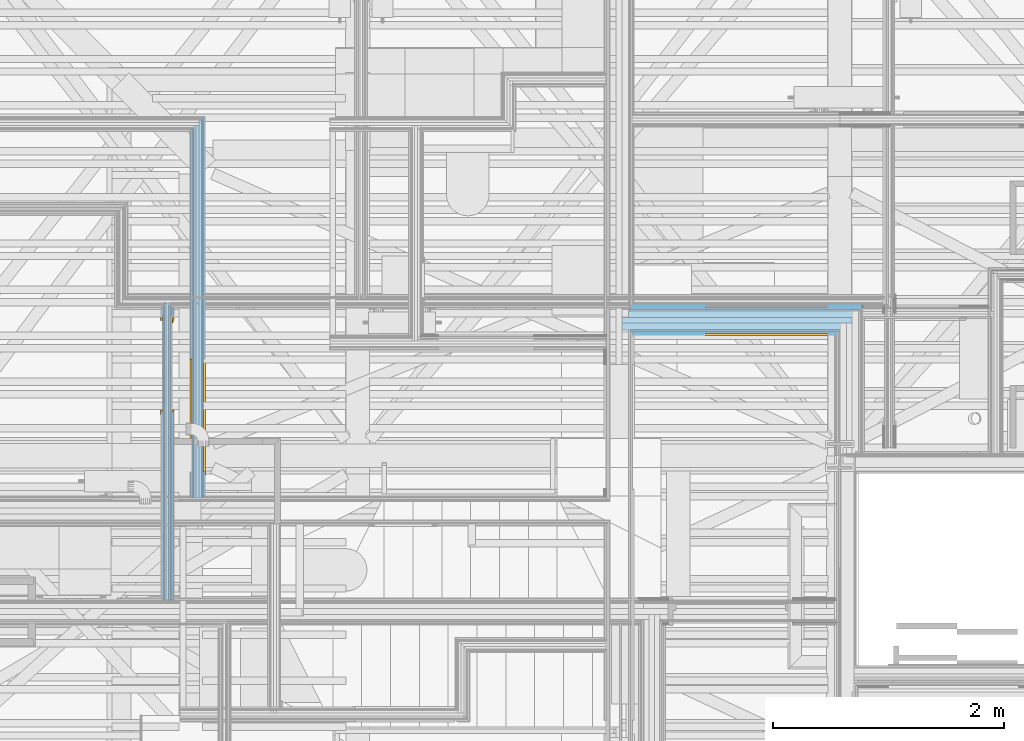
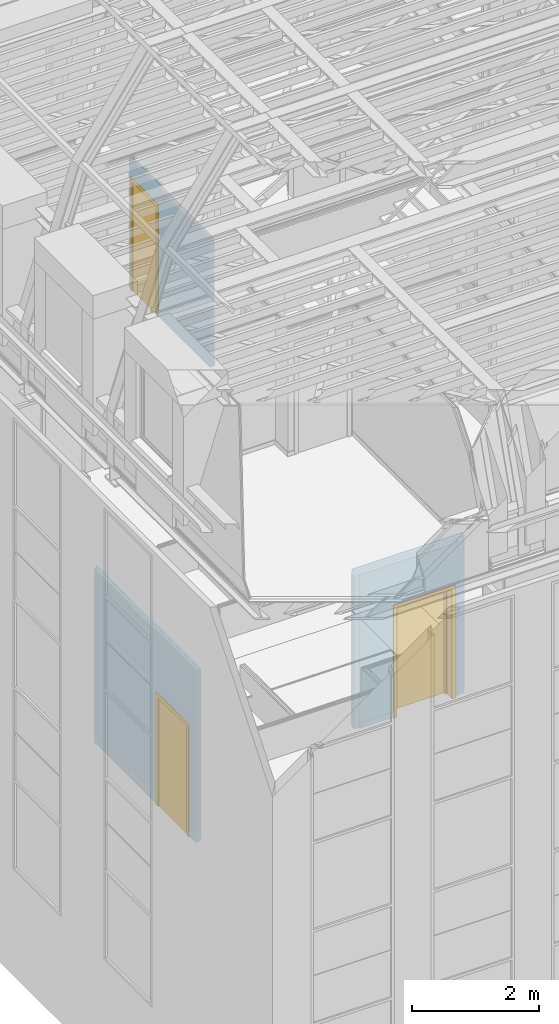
# One storey, part 102 of 183: 3 doors, 4 openings, 3 elements without a shape of their own, plus 23 elements that do not belong to this part.
"""IFC2X3 building model written with IfcOpenShell, lengths in metres."""

from ifc_helpers import new_model, entity, si_unit, converted_unit, derived_unit, money_unit, direction, frame, frame_2d, origin_with_axes, place, context, subcontext, project, spatial, polyline, rectangle, outline, extrude, faceted_brep, material, type_object, element, fill, aggregate, save


model = new_model("IFC2X3")

# Units and contexts
model_context = context("Model", 3, precision=1e-05, world=origin_with_axes(), true_north=direction((0.0, 1.0)))
body_context = subcontext(model_context, "Body", "Model", "MODEL_VIEW", scale=1.0)
ifc_project = project(units=[si_unit("LENGTHUNIT", "METRE"), si_unit("AREAUNIT", "SQUARE_METRE"), si_unit("VOLUMEUNIT", "CUBIC_METRE"), si_unit("ABSORBEDDOSEUNIT", "GRAY"), si_unit("AMOUNTOFSUBSTANCEUNIT", "MOLE"), si_unit("DOSEEQUIVALENTUNIT", "SIEVERT"), si_unit("ELECTRICCAPACITANCEUNIT", "FARAD"), si_unit("ELECTRICCHARGEUNIT", "COULOMB"), si_unit("ELECTRICCONDUCTANCEUNIT", "SIEMENS"), si_unit("ELECTRICCURRENTUNIT", "AMPERE"), si_unit("ELECTRICRESISTANCEUNIT", "OHM"), si_unit("ELECTRICVOLTAGEUNIT", "VOLT"), si_unit("ENERGYUNIT", "JOULE"), si_unit("FORCEUNIT", "NEWTON"), si_unit("FREQUENCYUNIT", "HERTZ"), si_unit("ILLUMINANCEUNIT", "LUX"), si_unit("INDUCTANCEUNIT", "HENRY"), si_unit("LUMINOUSFLUXUNIT", "LUMEN"), si_unit("LUMINOUSINTENSITYUNIT", "CANDELA"), si_unit("MAGNETICFLUXDENSITYUNIT", "TESLA"), si_unit("MAGNETICFLUXUNIT", "WEBER"), si_unit("MASSUNIT", "GRAM"), converted_unit("PLANEANGLEUNIT", "degree", entity("IfcReal", 0.0174532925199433), si_unit("PLANEANGLEUNIT", "RADIAN"), dimensions=[0, 0, 0, 0, 0, 0, 0]), si_unit("POWERUNIT", "WATT"), si_unit("PRESSUREUNIT", "PASCAL"), si_unit("RADIOACTIVITYUNIT", "BECQUEREL"), si_unit("SOLIDANGLEUNIT", "STERADIAN"), si_unit("THERMODYNAMICTEMPERATUREUNIT", "KELVIN"), si_unit("TIMEUNIT", "SECOND"), derived_unit("ACCELERATIONUNIT", [(si_unit("LENGTHUNIT", "METRE"), 1), (si_unit("TIMEUNIT", "SECOND"), -2)]), derived_unit("ANGULARVELOCITYUNIT", [(converted_unit("PLANEANGLEUNIT", "degree", entity("IfcReal", 0.0174532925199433), si_unit("PLANEANGLEUNIT", "RADIAN"), dimensions=[0, 0, 0, 0, 0, 0, 0]), 1), (si_unit("TIMEUNIT", "SECOND"), -1)]), derived_unit("CURVATUREUNIT", [(converted_unit("PLANEANGLEUNIT", "degree", entity("IfcReal", 0.0174532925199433), si_unit("PLANEANGLEUNIT", "RADIAN"), dimensions=[0, 0, 0, 0, 0, 0, 0]), 1), (si_unit("LENGTHUNIT", "METRE"), -1)]), derived_unit("DYNAMICVISCOSITYUNIT", [(si_unit("PRESSUREUNIT", "PASCAL"), 1), (si_unit("TIMEUNIT", "SECOND"), 1)]), derived_unit("HEATFLUXDENSITYUNIT", [(si_unit("POWERUNIT", "WATT"), 1), (si_unit("LENGTHUNIT", "METRE"), -2)]), derived_unit("HEATINGVALUEUNIT", [(si_unit("ENERGYUNIT", "JOULE"), 1), (si_unit("MASSUNIT", "GRAM"), -1)]), derived_unit("INTEGERCOUNTRATEUNIT", [(si_unit("TIMEUNIT", "SECOND"), -1)]), derived_unit("IONCONCENTRATIONUNIT", [(si_unit("MASSUNIT", "GRAM"), 1), (si_unit("VOLUMEUNIT", "CUBIC_METRE"), -1)]), derived_unit("ISOTHERMALMOISTURECAPACITYUNIT", [(si_unit("VOLUMEUNIT", "CUBIC_METRE"), 1), (si_unit("MASSUNIT", "GRAM"), -1)]), derived_unit("KINEMATICVISCOSITYUNIT", [(si_unit("AREAUNIT", "SQUARE_METRE"), 1), (si_unit("TIMEUNIT", "SECOND"), -1)]), derived_unit("LINEARFORCEUNIT", [(si_unit("FORCEUNIT", "NEWTON"), 1), (si_unit("LENGTHUNIT", "METRE"), -1)]), derived_unit("LINEARMOMENTUNIT", [(si_unit("FORCEUNIT", "NEWTON"), 1), (si_unit("LENGTHUNIT", "METRE"), -1)]), derived_unit("LINEARSTIFFNESSUNIT", [(si_unit("FORCEUNIT", "NEWTON"), 1), (si_unit("LENGTHUNIT", "METRE"), -1)]), derived_unit("LINEARVELOCITYUNIT", [(si_unit("LENGTHUNIT", "METRE"), 1), (si_unit("TIMEUNIT", "SECOND"), -1)]), derived_unit("LUMINOUSINTENSITYDISTRIBUTIONUNIT", [(si_unit("LUMINOUSINTENSITYUNIT", "CANDELA"), 1), (si_unit("LUMINOUSFLUXUNIT", "LUMEN"), -1)]), derived_unit("MASSDENSITYUNIT", [(si_unit("MASSUNIT", "GRAM"), 1), (si_unit("VOLUMEUNIT", "CUBIC_METRE"), -1)]), derived_unit("MASSFLOWRATEUNIT", [(si_unit("MASSUNIT", "GRAM"), 1), (si_unit("TIMEUNIT", "SECOND"), -1)]), derived_unit("MASSPERLENGTHUNIT", [(si_unit("MASSUNIT", "GRAM"), 1), (si_unit("LENGTHUNIT", "METRE"), -1)]), derived_unit("MODULUSOFELASTICITYUNIT", [(si_unit("FORCEUNIT", "NEWTON"), 1), (si_unit("AREAUNIT", "SQUARE_METRE"), -1)]), derived_unit("MODULUSOFLINEARSUBGRADEREACTIONUNIT", [(si_unit("FORCEUNIT", "NEWTON"), 1), (si_unit("LENGTHUNIT", "METRE"), -2)]), derived_unit("MODULUSOFROTATIONALSUBGRADEREACTIONUNIT", [(si_unit("FORCEUNIT", "NEWTON"), 1), (si_unit("LENGTHUNIT", "METRE"), 1)]), derived_unit("MODULUSOFSUBGRADEREACTIONUNIT", [(si_unit("FORCEUNIT", "NEWTON"), 1), (si_unit("VOLUMEUNIT", "CUBIC_METRE"), -1)]), derived_unit("MOISTUREDIFFUSIVITYUNIT", [(si_unit("VOLUMEUNIT", "CUBIC_METRE"), 1), (si_unit("TIMEUNIT", "SECOND"), -1)]), derived_unit("MOLECULARWEIGHTUNIT", [(si_unit("MASSUNIT", "GRAM"), 1), (si_unit("AMOUNTOFSUBSTANCEUNIT", "MOLE"), -1)]), derived_unit("PLANARFORCEUNIT", [(si_unit("FORCEUNIT", "NEWTON"), 1), (si_unit("LENGTHUNIT", "METRE"), -2)]), derived_unit("ROTATIONALFREQUENCYUNIT", [(si_unit("TIMEUNIT", "SECOND"), -1)]), derived_unit("ROTATIONALMASSUNIT", [(si_unit("MASSUNIT", "GRAM"), 1), (si_unit("LENGTHUNIT", "METRE"), 2)]), derived_unit("ROTATIONALSTIFFNESSUNIT", [(si_unit("FORCEUNIT", "NEWTON"), 1), (si_unit("LENGTHUNIT", "METRE"), 1), (converted_unit("PLANEANGLEUNIT", "degree", entity("IfcReal", 0.0174532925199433), si_unit("PLANEANGLEUNIT", "RADIAN"), dimensions=[0, 0, 0, 0, 0, 0, 0]), -1)]), derived_unit("SECTIONAREAINTEGRALUNIT", [(si_unit("LENGTHUNIT", "METRE"), 5)]), derived_unit("SECTIONMODULUSUNIT", [(si_unit("LENGTHUNIT", "METRE"), 3)]), derived_unit("SHEARMODULUSUNIT", [(si_unit("FORCEUNIT", "NEWTON"), 1), (si_unit("AREAUNIT", "SQUARE_METRE"), -1)]), derived_unit("SOUNDPOWERUNIT", [(si_unit("ENERGYUNIT", "JOULE"), 1), (si_unit("TIMEUNIT", "SECOND"), -1)]), derived_unit("SPECIFICHEATCAPACITYUNIT", [(si_unit("FORCEUNIT", "NEWTON"), 1), (si_unit("MASSUNIT", "GRAM"), -1), (si_unit("THERMODYNAMICTEMPERATUREUNIT", "KELVIN"), -1)]), derived_unit("TEMPERATUREGRADIENTUNIT", [(si_unit("THERMODYNAMICTEMPERATUREUNIT", "KELVIN"), 1), (si_unit("LENGTHUNIT", "METRE"), -1)]), derived_unit("THERMALADMITTANCEUNIT", [(si_unit("POWERUNIT", "WATT"), 1), (si_unit("AREAUNIT", "SQUARE_METRE"), -1), (si_unit("THERMODYNAMICTEMPERATUREUNIT", "KELVIN"), -1)]), derived_unit("THERMALCONDUCTANCEUNIT", [(si_unit("POWERUNIT", "WATT"), 1), (si_unit("LENGTHUNIT", "METRE"), -1), (si_unit("THERMODYNAMICTEMPERATUREUNIT", "KELVIN"), -1)]), derived_unit("THERMALEXPANSIONCOEFFICIENTUNIT", [(si_unit("THERMODYNAMICTEMPERATUREUNIT", "KELVIN"), -1)]), derived_unit("THERMALRESISTANCEUNIT", [(si_unit("AREAUNIT", "SQUARE_METRE"), 1), (si_unit("POWERUNIT", "WATT"), -1)]), derived_unit("THERMALTRANSMITTANCEUNIT", [(si_unit("POWERUNIT", "WATT"), 1), (si_unit("AREAUNIT", "SQUARE_METRE"), -1), (si_unit("THERMODYNAMICTEMPERATUREUNIT", "KELVIN"), -1)]), derived_unit("TORQUEUNIT", [(si_unit("FORCEUNIT", "NEWTON"), 1), (si_unit("LENGTHUNIT", "METRE"), 1)]), derived_unit("VAPORPERMEABILITYUNIT", [(si_unit("MASSUNIT", "GRAM"), 1), (si_unit("TIMEUNIT", "SECOND"), -1)]), derived_unit("VOLUMETRICFLOWRATEUNIT", [(si_unit("VOLUMEUNIT", "CUBIC_METRE"), 1), (si_unit("TIMEUNIT", "SECOND"), -1)]), derived_unit("WARPINGCONSTANTUNIT", [(si_unit("LENGTHUNIT", "METRE"), 6)]), derived_unit("WARPINGMOMENTUNIT", [(si_unit("FORCEUNIT", "NEWTON"), 1), (si_unit("LENGTHUNIT", "METRE"), 2)]), money_unit("GBP")], contexts=[model_context])

# Site, building, storey, space
site_placement = place(None, origin_with_axes())
site = spatial("IfcSite", under=ifc_project, at=site_placement, Name="Site", CompositionType="ELEMENT")
building_placement = place(site_placement, origin_with_axes())
building = spatial("IfcBuilding", under=site, at=building_placement, Name="Building01", CompositionType="ELEMENT")
storey_placement = place(building_placement, frame((0.0, 0.0, 5.15), z_axis=(0.0, 0.0, 1.0), x_axis=(1.0, 0.0, 0.0)))
storey = spatial("IfcBuildingStorey", under=building, at=storey_placement, Name="1F", CompositionType="ELEMENT", Elevation=5.15)
space_1_placement = place(storey_placement, frame((1.009939, 13.890379, 9.81), z_axis=(0.0, 0.0, 1.0), x_axis=(0.0, -1.0, 0.0)))
space_1 = spatial("IfcSpace", under=storey, at=space_1_placement, Name="26", CompositionType="ELEMENT", InteriorOrExteriorSpace="NOTDEFINED")

# Door
ifc_material_1 = material(Name="A_BSUK_Doors")
door_style_1 = type_object("IfcDoorStyle", Name="A-Doors-SingleFlush", ConstructionType="USERDEFINED", OperationType="SINGLE_SWING_RIGHT", ParameterTakesPrecedence=False, Sizeable=False)
wall_3_placement = place(storey_placement, frame((3.272, 7.550061, 9.78), z_axis=(0.0, 0.0, 1.0), x_axis=(0.0, 1.0, 0.0)))
opening_4_placement = place(wall_3_placement, frame((1.632879, -0.043, 0.0), z_axis=(0.0, 0.0, 1.0), x_axis=(1.0, 0.0, 0.0)))
door_1_placement = place(opening_4_placement, frame((0.042, 0.095, 0.0), z_axis=(0.0, 0.0, 1.0), x_axis=(1.0, 0.0, 0.0)))
door_1 = element("IfcDoor", 1, at=door_1_placement, inside=space_1, type_object=door_style_1, material=ifc_material_1, Name="4.26", ObjectType="A-Doors-SingleFlush", OverallHeight=2.142, OverallWidth=0.834, context=body_context, shape_type="Brep", body=[
    faceted_brep([(0.75, -0.099, 0.0), (0.819, -0.099, 0.0), (0.819, -0.099, 2.169), (-0.069, -0.099, 2.169), (-0.069, -0.099, 0.0), (0.0, -0.099, 0.0), (0.0, -0.099, 2.1), (0.75, -0.099, 2.1), (-0.069, -0.08, 0.0), (-0.069, -0.08, 2.169), (0.819, -0.08, 2.169), (0.819, -0.08, 0.0), (0.75, 0.019, 0.0), (0.819, 0.019, 0.0), (0.819, 0.0, 0.0), (0.792, 0.0, 0.0), (0.792, -0.08, 0.0), (0.75, 0.019, 2.1), (0.0, 0.019, 2.1), (0.0, 0.019, 0.0), (-0.069, 0.019, 0.0), (-0.069, 0.019, 2.169), (0.819, 0.019, 2.169), (0.819, 0.0, 2.169), (0.792, -0.08, 2.142), (0.792, 0.0, 2.142), (-0.042, -0.08, 2.142), (-0.042, 0.0, 2.142), (-0.042, -0.08, 0.0), (-0.042, 0.0, 0.0), (-0.069, 0.0, 2.169), (-0.069, 0.0, 0.0)], [[[0, 1, 2, 3, 4, 5, 6, 7]], [[8, 4, 3, 9]], [[10, 2, 1, 11]], [[9, 3, 2, 10]], [[12, 13, 14, 15, 16, 11, 1, 0]], [[7, 17, 12, 0]], [[6, 18, 17, 7]], [[18, 19, 20, 21, 22, 13, 12, 17]], [[5, 19, 18, 6]], [[13, 22, 23, 14]], [[24, 16, 15, 25]], [[26, 24, 25, 27]], [[11, 16, 24, 26, 28, 8, 9, 10]], [[27, 29, 28, 26]], [[25, 15, 14, 23, 30, 31, 29, 27]], [[5, 4, 8, 28, 29, 31, 20, 19]], [[30, 21, 20, 31]], [[23, 22, 21, 30]]]),
    faceted_brep([(0.0, -0.09, 2.1), (0.0, -0.04, 2.1), (0.0, -0.04, 0.0), (0.0, -0.09, 0.0), (0.725, -0.09, 0.0), (0.75, -0.09, 0.0), (0.75, -0.09, 2.1), (0.025, -0.09, 0.0), (0.025, -0.09, 2.075), (0.725, -0.09, 2.075), (0.725, -0.04, 0.0), (0.75, -0.04, 0.0), (0.75, -0.04, 2.1), (0.025, -0.04, 2.075), (0.025, -0.04, 0.0), (0.725, -0.04, 2.075)], [[[0, 1, 2, 3]], [[4, 5, 6, 0, 3, 7, 8, 9]], [[10, 11, 5, 4]], [[6, 12, 1, 0]], [[5, 11, 12, 6]], [[13, 14, 2, 1, 12, 11, 10, 15]], [[7, 14, 13, 8]], [[7, 3, 2, 14]], [[9, 15, 10, 4]], [[8, 13, 15, 9]]]),
    faceted_brep([(0.75, -0.04, 0.0), (0.75, 0.0, 0.0), (0.75, 0.0, 2.1), (0.75, -0.04, 2.1), (0.0, -0.04, 2.1), (0.0, 0.0, 2.1), (0.0, 0.0, 0.0), (0.0, -0.04, 0.0)], [[[0, 1, 2, 3]], [[4, 5, 6, 7]], [[7, 6, 1, 0]], [[3, 4, 7, 0]], [[3, 2, 5, 4]], [[1, 6, 5, 2]]]),
])

# Space
space_2_placement = place(storey_placement, frame((11.375, 11.668124, 0.017975), z_axis=(0.0, 0.0, 1.0), x_axis=(-1.0, 0.0, 0.0)))
space_2 = spatial("IfcSpace", under=storey, at=space_2_placement, Name="corridor", CompositionType="ELEMENT", InteriorOrExteriorSpace="NOTDEFINED")

# Door
door_style_2 = type_object("IfcDoorStyle", Name="A-Doors-SingleFlush", ConstructionType="USERDEFINED", OperationType="SINGLE_SWING_LEFT", ParameterTakesPrecedence=False, Sizeable=False)
wall_1_placement = place(storey_placement, frame((9.197, 9.949704, 0.0), z_axis=(0.0, 0.0, 1.0), x_axis=(-1.0, 0.0, 0.0)))
opening_2_placement = place(wall_1_placement, frame((0.200331, -0.153, 0.0), z_axis=(0.0, 0.0, 1.0), x_axis=(1.0, 0.0, 0.0)))
door_2_placement = place(opening_2_placement, frame((1.042, 0.015, 0.0), z_axis=(0.0, 0.0, 1.0), x_axis=(-1.0, 0.0, 0.0)))
door_2 = element("IfcDoor", 2, at=door_2_placement, inside=space_2, type_object=door_style_2, material=ifc_material_1, Name="1.23", ObjectType="A-Doors-SingleFlush", OverallHeight=2.142, OverallWidth=1.084, context=body_context, shape_type="Brep", body=[
    faceted_brep([(0.0, -0.244, 2.1), (1.0, -0.244, 2.1), (1.0, -0.244, 0.0), (1.069, -0.244, 0.0), (1.069, -0.244, 2.169), (-0.069, -0.244, 2.169), (-0.069, -0.244, 0.0), (0.0, -0.244, 0.0), (1.069, -0.225, 2.169), (1.069, -0.225, 0.0), (-0.069, -0.225, 0.0), (-0.069, -0.225, 2.169), (-0.042, -0.225, 0.0), (-0.042, 0.0, 0.0), (-0.069, 0.0, 0.0), (-0.069, 0.019, 0.0), (0.0, 0.019, 0.0), (0.0, 0.019, 2.1), (1.0, 0.019, 2.1), (-0.069, 0.019, 2.169), (1.069, 0.019, 2.169), (1.069, 0.019, 0.0), (1.0, 0.019, 0.0), (-0.069, 0.0, 2.169), (-0.042, 0.0, 2.142), (-0.042, -0.225, 2.142), (1.042, 0.0, 2.142), (1.042, -0.225, 2.142), (1.042, -0.225, 0.0), (1.042, 0.0, 0.0), (1.069, 0.0, 0.0), (1.069, 0.0, 2.169)], [[[0, 1, 2, 3, 4, 5, 6, 7]], [[8, 4, 3, 9]], [[10, 6, 5, 11]], [[11, 5, 4, 8]], [[7, 6, 10, 12, 13, 14, 15, 16]], [[7, 16, 17, 0]], [[0, 17, 18, 1]], [[17, 16, 15, 19, 20, 21, 22, 18]], [[1, 18, 22, 2]], [[14, 23, 19, 15]], [[24, 13, 12, 25]], [[26, 24, 25, 27]], [[11, 8, 9, 28, 27, 25, 12, 10]], [[27, 28, 29, 26]], [[26, 29, 30, 31, 23, 14, 13, 24]], [[22, 21, 30, 29, 28, 9, 3, 2]], [[30, 21, 20, 31]], [[31, 20, 19, 23]]]),
    faceted_brep([(1.0, -0.09, 0.0), (1.0, -0.04, 0.0), (1.0, -0.04, 2.1), (1.0, -0.09, 2.1), (0.025, -0.09, 2.075), (0.975, -0.09, 2.075), (0.975, -0.09, 0.0), (0.0, -0.09, 2.1), (0.0, -0.09, 0.0), (0.025, -0.09, 0.0), (0.0, -0.04, 0.0), (0.025, -0.04, 0.0), (0.0, -0.04, 2.1), (0.025, -0.04, 2.075), (0.975, -0.04, 0.0), (0.975, -0.04, 2.075)], [[[0, 1, 2, 3]], [[4, 5, 6, 0, 3, 7, 8, 9]], [[9, 8, 10, 11]], [[3, 2, 12, 7]], [[7, 12, 10, 8]], [[13, 11, 10, 12, 2, 1, 14, 15]], [[5, 15, 14, 6]], [[14, 1, 0, 6]], [[9, 11, 13, 4]], [[4, 13, 15, 5]]]),
    faceted_brep([(0.0, -0.04, 2.1), (0.0, 0.0, 2.1), (0.0, 0.0, 0.0), (0.0, -0.04, 0.0), (1.0, -0.04, 0.0), (1.0, 0.0, 0.0), (1.0, 0.0, 2.1), (1.0, -0.04, 2.1)], [[[0, 1, 2, 3]], [[4, 5, 6, 7]], [[3, 2, 5, 4]], [[3, 4, 7, 0]], [[7, 6, 1, 0]], [[1, 6, 5, 2]]]),
])

# Space
space_3_placement = place(storey_placement, frame((7.064669, 14.582, 0.017975), z_axis=(0.0, 0.0, 1.0), x_axis=(-1.0, 0.0, 0.0)))
space_3 = spatial("IfcSpace", under=storey, at=space_3_placement, Name="07", CompositionType="ELEMENT", InteriorOrExteriorSpace="NOTDEFINED")

# Door
door_style_3 = type_object("IfcDoorStyle", Name="A-Doors-SingleFlush", ConstructionType="USERDEFINED", OperationType="SINGLE_SWING_LEFT", ParameterTakesPrecedence=False, Sizeable=False)
wall_2_placement = place(storey_placement, frame((3.534669, 8.43567, 0.0), z_axis=(0.0, 0.0, 1.0), x_axis=(0.0, 1.0, 0.0)))
opening_3_placement = place(wall_2_placement, frame((0.223034, -0.05, 0.0), z_axis=(0.0, 0.0, 1.0), x_axis=(1.0, 0.0, 0.0)))
door_3_placement = place(opening_3_placement, frame((0.042, 0.11, 0.0), z_axis=(0.0, 0.0, 1.0), x_axis=(1.0, 0.0, 0.0)))
door_3 = element("IfcDoor", 3, at=door_3_placement, inside=space_3, type_object=door_style_3, material=ifc_material_1, Name="1.21", ObjectType="A-Doors-SingleFlush", OverallHeight=2.142, OverallWidth=0.984, context=body_context, shape_type="Brep", body=[
    faceted_brep([(0.0, -0.114, 2.1), (0.9, -0.114, 2.1), (0.9, -0.114, 0.0), (0.969, -0.114, 0.0), (0.969, -0.114, 2.169), (-0.069, -0.114, 2.169), (-0.069, -0.114, 0.0), (0.0, -0.114, 0.0), (0.969, -0.095, 2.169), (0.969, -0.095, 0.0), (-0.069, -0.095, 0.0), (-0.069, -0.095, 2.169), (-0.042, -0.095, 0.0), (-0.042, 0.0, 0.0), (-0.069, 0.0, 0.0), (-0.069, 0.019, 0.0), (0.0, 0.019, 0.0), (0.0, 0.019, 2.1), (0.9, 0.019, 2.1), (-0.069, 0.019, 2.169), (0.969, 0.019, 2.169), (0.969, 0.019, 0.0), (0.9, 0.019, 0.0), (-0.069, 0.0, 2.169), (-0.042, 0.0, 2.142), (-0.042, -0.095, 2.142), (0.942, 0.0, 2.142), (0.942, -0.095, 2.142), (0.942, -0.095, 0.0), (0.942, 0.0, 0.0), (0.969, 0.0, 0.0), (0.969, 0.0, 2.169)], [[[0, 1, 2, 3, 4, 5, 6, 7]], [[8, 4, 3, 9]], [[10, 6, 5, 11]], [[11, 5, 4, 8]], [[7, 6, 10, 12, 13, 14, 15, 16]], [[7, 16, 17, 0]], [[0, 17, 18, 1]], [[17, 16, 15, 19, 20, 21, 22, 18]], [[1, 18, 22, 2]], [[14, 23, 19, 15]], [[24, 13, 12, 25]], [[26, 24, 25, 27]], [[11, 8, 9, 28, 27, 25, 12, 10]], [[27, 28, 29, 26]], [[26, 29, 30, 31, 23, 14, 13, 24]], [[22, 21, 30, 29, 28, 9, 3, 2]], [[30, 21, 20, 31]], [[31, 20, 19, 23]]]),
    faceted_brep([(0.9, -0.09, 0.0), (0.9, -0.04, 0.0), (0.9, -0.04, 2.1), (0.9, -0.09, 2.1), (0.025, -0.09, 2.075), (0.875, -0.09, 2.075), (0.875, -0.09, 0.0), (0.0, -0.09, 2.1), (0.0, -0.09, 0.0), (0.025, -0.09, 0.0), (0.0, -0.04, 0.0), (0.025, -0.04, 0.0), (0.0, -0.04, 2.1), (0.025, -0.04, 2.075), (0.875, -0.04, 0.0), (0.875, -0.04, 2.075)], [[[0, 1, 2, 3]], [[4, 5, 6, 0, 3, 7, 8, 9]], [[9, 8, 10, 11]], [[3, 2, 12, 7]], [[7, 12, 10, 8]], [[13, 11, 10, 12, 2, 1, 14, 15]], [[5, 15, 14, 6]], [[14, 1, 0, 6]], [[9, 11, 13, 4]], [[4, 13, 15, 5]]]),
    faceted_brep([(0.0, -0.04, 2.1), (0.0, 0.0, 2.1), (0.0, 0.0, 0.0), (0.0, -0.04, 0.0), (0.9, -0.04, 0.0), (0.9, 0.0, 0.0), (0.9, 0.0, 2.1), (0.9, -0.04, 2.1)], [[[0, 1, 2, 3]], [[4, 5, 6, 7]], [[3, 2, 5, 4]], [[3, 4, 7, 0]], [[7, 6, 1, 0]], [[1, 6, 5, 2]]]),
])

# Wall, openings
wall_type_1 = type_object("IfcWallType", Name="SHE_A-Walls_Type01c_Partywall_225mm_twin_tall", PredefinedType="NOTDEFINED")
wall_1 = element("IfcWall", 4, at=wall_1_placement, inside=storey, type_object=wall_type_1, Name="1C", ObjectType="SHE_A-Walls_Type01c_Partywall_225mm_twin_tall")
opening_1_placement = place(wall_1_placement, frame((-0.931871, -0.153, 0.0), z_axis=(0.0, 0.0, 1.0), x_axis=(1.0, 0.0, 0.0)))
element("IfcOpeningElement", 5, at=opening_1_placement, cuts=wall_1, Name="Opening", ObjectType="Recess", context=body_context, shape_type="SweptSolid", body=[
    extrude(rectangle(XDim=2.142, YDim=0.834, at=frame_2d((-0.417, 1.071), x_axis=(0.0, -1.0))), frame((0.0, 0.0, 0.0), z_axis=(0.0, 1.0, 0.0), x_axis=(-1.0, 0.0, 0.0)), (0.0, 0.0, 1.0), 0.015),
])
opening_2 = element("IfcOpeningElement", 6, at=opening_2_placement, cuts=wall_1, Name="Opening", ObjectType="Opening", context=body_context, shape_type="SweptSolid", body=[
    extrude(rectangle(XDim=1.084, YDim=2.142, at=frame_2d((-0.542, 1.071), x_axis=(-1.0, 0.0))), frame((0.0, 0.0, 0.0), z_axis=(0.0, 1.0, 0.0), x_axis=(-1.0, 0.0, 0.0)), (0.0, 0.0, 1.0), 0.255),
])

fill(opening_2, door_2)

# Building element part
ifc_material_2 = material(Name="A_BSUK_Walls_Timber")
placement_1 = place(wall_1_placement, origin_with_axes())
building_element_part_1 = element("IfcBuildingElementPart", 7, at=placement_1, material=ifc_material_2, Name="1", context=body_context, shape_type="SweptSolid", body=[
    extrude(outline(polyline([(1.907331, -0.138), (-0.088, -0.138), (-0.103, -0.153), (1.907331, -0.153), (1.907331, -0.138)])), frame((0.0, 0.0, 0.015), z_axis=(0.0, 0.0, 1.0), x_axis=(1.0, 0.0, 0.0)), (0.0, 0.0, 1.0), 0.1),
])

ifc_material_3 = material(Name="A_BSUK_WallInternal_Finishes_Plasterboard")
building_element_part_2 = element("IfcBuildingElementPart", 8, at=placement_1, material=ifc_material_3, Name="2", context=body_context, shape_type="SweptSolid", body=[
    extrude(rectangle(XDim=2.010331, YDim=0.015, at=frame_2d((0.917166, -0.1305), x_axis=(-1.0, 0.0))), origin_with_axes(), (0.0, 0.0, 1.0), 2.95),
])

building_element_part_3 = element("IfcBuildingElementPart", 9, at=placement_1, material=ifc_material_3, Name="3", context=body_context, shape_type="SweptSolid", body=[
    extrude(rectangle(XDim=2.010331, YDim=0.015, at=frame_2d((0.932166, -0.1155), x_axis=(-1.0, 0.0))), origin_with_axes(), (0.0, 0.0, 1.0), 2.95),
])

ifc_material_4 = material(Name="Air Cavity")
building_element_part_4 = element("IfcBuildingElementPart", 10, at=placement_1, material=ifc_material_4, Name="4", context=body_context, shape_type="SweptSolid", body=[
    extrude(rectangle(XDim=2.010331, YDim=0.058, at=frame_2d((0.932166, -0.079), x_axis=(-1.0, 0.0))), origin_with_axes(), (0.0, 0.0, 1.0), 2.95),
])

ifc_material_5 = material(Name="A_BSUK_Insulation")
building_element_part_5 = element("IfcBuildingElementPart", 11, at=placement_1, material=ifc_material_5, Name="5", context=body_context, shape_type="SweptSolid", body=[
    extrude(rectangle(XDim=1.995331, YDim=0.05, at=frame_2d((0.997666, -0.025), x_axis=(-1.0, 0.0))), origin_with_axes(), (0.0, 0.0, 1.0), 2.95),
])

building_element_part_6 = element("IfcBuildingElementPart", 12, at=placement_1, material=ifc_material_4, Name="6", context=body_context, shape_type="SweptSolid", body=[
    extrude(rectangle(XDim=1.995331, YDim=0.057, at=frame_2d((0.997666, 0.0285), x_axis=(-1.0, 0.0))), origin_with_axes(), (0.0, 0.0, 1.0), 2.95),
])

building_element_part_7 = element("IfcBuildingElementPart", 13, at=placement_1, material=ifc_material_3, Name="7", context=body_context, shape_type="SweptSolid", body=[
    extrude(outline(polyline([(1.922331, 0.072), (0.122, 0.072), (0.107, 0.057), (1.922331, 0.057), (1.922331, 0.072)])), origin_with_axes(), (0.0, 0.0, 1.0), 2.95),
])

building_element_part_8 = element("IfcBuildingElementPart", 14, at=placement_1, material=ifc_material_3, Name="8", context=body_context, shape_type="SweptSolid", body=[
    extrude(outline(polyline([(1.907331, 0.087), (0.137, 0.087), (0.122, 0.072), (1.907331, 0.072), (1.907331, 0.087)])), origin_with_axes(), (0.0, 0.0, 1.0), 2.95),
])

building_element_part_9 = element("IfcBuildingElementPart", 15, at=placement_1, material=ifc_material_2, Name="9", context=body_context, shape_type="SweptSolid", body=[
    extrude(outline(polyline([(1.892331, 0.102), (0.152, 0.102), (0.137, 0.087), (1.892331, 0.087), (1.892331, 0.102)])), frame((0.0, 0.0, 0.015), z_axis=(0.0, 0.0, 1.0), x_axis=(1.0, 0.0, 0.0)), (0.0, 0.0, 1.0), 0.1),
])

aggregate(wall_1, [building_element_part_1, building_element_part_2, building_element_part_3, building_element_part_4, building_element_part_5, building_element_part_6, building_element_part_7, building_element_part_8, building_element_part_9])

# Wall, opening
wall_type_2 = type_object("IfcWallType", Name="SHE_A-Walls_Type05a_Partition_95mm_tall", PredefinedType="NOTDEFINED")
wall_2 = element("IfcWall", 16, at=wall_2_placement, inside=storey, type_object=wall_type_2, Name="5A", ObjectType="SHE_A-Walls_Type05a_Partition_95mm_tall")
opening_3 = element("IfcOpeningElement", 17, at=opening_3_placement, cuts=wall_2, Name="Opening", ObjectType="Opening", context=body_context, shape_type="SweptSolid", body=[
    extrude(rectangle(XDim=0.984, YDim=2.142, at=frame_2d((-0.492, 1.071), x_axis=(1.0, 0.0))), frame((0.0, 0.0, 0.0), z_axis=(0.0, 1.0, 0.0), x_axis=(-1.0, 0.0, 0.0)), (0.0, 0.0, 1.0), 0.125),
])

fill(opening_3, door_3)

# Building element part
placement_2 = place(wall_2_placement, origin_with_axes())
building_element_part_10 = element("IfcBuildingElementPart", 18, at=placement_2, material=ifc_material_2, Name="1", context=body_context, shape_type="SweptSolid", body=[
    extrude(outline(polyline([(3.29, -0.035), (0.015, -0.035), (0.015, -0.05), (3.305, -0.05), (3.29, -0.035)])), frame((0.0, 0.0, 0.015), z_axis=(0.0, 0.0, 1.0), x_axis=(1.0, 0.0, 0.0)), (0.0, 0.0, 1.0), 0.1),
])

building_element_part_11 = element("IfcBuildingElementPart", 19, at=placement_2, material=ifc_material_3, Name="2", context=body_context, shape_type="SweptSolid", body=[
    extrude(outline(polyline([(3.278, -0.023), (0.0, -0.023), (0.0, -0.035), (3.29, -0.035), (3.278, -0.023)])), origin_with_axes(), (0.0, 0.0, 1.0), 3.32),
])

building_element_part_12 = element("IfcBuildingElementPart", 20, at=placement_2, material=ifc_material_4, Name="3", context=body_context, shape_type="SweptSolid", body=[
    extrude(outline(polyline([(3.255, 0.0), (0.0, 0.0), (0.0, -0.023), (3.278, -0.023), (3.255, 0.0)])), origin_with_axes(), (0.0, 0.0, 1.0), 3.32),
])

building_element_part_13 = element("IfcBuildingElementPart", 21, at=placement_2, material=ifc_material_5, Name="4", context=body_context, shape_type="SweptSolid", body=[
    extrude(rectangle(XDim=3.23, YDim=0.025, at=frame_2d((1.615, 0.0125), x_axis=(-1.0, 0.0))), origin_with_axes(), (0.0, 0.0, 1.0), 3.32),
])

building_element_part_14 = element("IfcBuildingElementPart", 22, at=placement_2, material=ifc_material_4, Name="5", context=body_context, shape_type="SweptSolid", body=[
    extrude(rectangle(XDim=3.23, YDim=0.023, at=frame_2d((1.615, 0.0365), x_axis=(-1.0, 0.0))), origin_with_axes(), (0.0, 0.0, 1.0), 3.32),
])

building_element_part_15 = element("IfcBuildingElementPart", 23, at=placement_2, material=ifc_material_3, Name="6", context=body_context, shape_type="SweptSolid", body=[
    extrude(outline(polyline([(3.195, 0.06), (0.0, 0.06), (0.0, 0.048), (3.207, 0.048), (3.195, 0.06)])), origin_with_axes(), (0.0, 0.0, 1.0), 3.32),
])

building_element_part_16 = element("IfcBuildingElementPart", 24, at=placement_2, material=ifc_material_2, Name="7", context=body_context, shape_type="SweptSolid", body=[
    extrude(outline(polyline([(3.18, 0.075), (0.015, 0.075), (0.015, 0.06), (3.195, 0.06), (3.18, 0.075)])), frame((0.0, 0.0, 0.015), z_axis=(0.0, 0.0, 1.0), x_axis=(1.0, 0.0, 0.0)), (0.0, 0.0, 1.0), 0.1),
])

aggregate(wall_2, [building_element_part_10, building_element_part_11, building_element_part_12, building_element_part_13, building_element_part_14, building_element_part_15, building_element_part_16])

# Wall, opening
wall_type_3 = type_object("IfcWallType", Name="SHE_A-Walls_Type05b_Partition_80mm", PredefinedType="NOTDEFINED")
wall_3 = element("IfcWall", 25, at=wall_3_placement, inside=storey, type_object=wall_type_3, Name="5B", ObjectType="SHE_A-Walls_Type05b_Partition_80mm")
opening_4 = element("IfcOpeningElement", 26, at=opening_4_placement, cuts=wall_3, Name="Opening", ObjectType="Opening", context=body_context, shape_type="SweptSolid", body=[
    extrude(rectangle(XDim=0.834, YDim=2.142, at=frame_2d((-0.417, 1.071), x_axis=(-1.0, 0.0))), frame((0.0, 0.0, 0.0), z_axis=(0.0, 1.0, 0.0), x_axis=(-1.0, 0.0, 0.0)), (0.0, 0.0, 1.0), 0.11),
])

fill(opening_4, door_1)

# Building element part
placement_3 = place(wall_3_placement, origin_with_axes())
building_element_part_17 = element("IfcBuildingElementPart", 27, at=placement_3, material=ifc_material_2, Name="1", context=body_context, shape_type="SweptSolid", body=[
    extrude(rectangle(XDim=2.534879, YDim=0.015, at=frame_2d((1.267439, -0.0355), x_axis=(-1.0, 0.0))), frame((0.0, 0.0, 0.015), z_axis=(0.0, 0.0, 1.0), x_axis=(1.0, 0.0, 0.0)), (0.0, 0.0, 1.0), 0.1),
])

building_element_part_18 = element("IfcBuildingElementPart", 28, at=placement_3, material=ifc_material_3, Name="2", context=body_context, shape_type="SweptSolid", body=[
    extrude(rectangle(XDim=2.549879, YDim=0.015, at=frame_2d((1.274939, -0.0205), x_axis=(-1.0, 0.0))), origin_with_axes(), (0.0, 0.0, 1.0), 2.468),
])

building_element_part_19 = element("IfcBuildingElementPart", 29, at=placement_3, material=ifc_material_4, Name="3", context=body_context, shape_type="SweptSolid", body=[
    extrude(rectangle(XDim=2.549879, YDim=0.013, at=frame_2d((1.274939, -0.0065), x_axis=(-1.0, 0.0))), origin_with_axes(), (0.0, 0.0, 1.0), 2.468),
])

building_element_part_20 = element("IfcBuildingElementPart", 30, at=placement_3, material=ifc_material_5, Name="4", context=body_context, shape_type="SweptSolid", body=[
    extrude(rectangle(XDim=2.576879, YDim=0.025, at=frame_2d((1.288439, 0.0125), x_axis=(-1.0, 0.0))), origin_with_axes(), (0.0, 0.0, 1.0), 2.468),
])

building_element_part_21 = element("IfcBuildingElementPart", 31, at=placement_3, material=ifc_material_4, Name="5", context=body_context, shape_type="SweptSolid", body=[
    extrude(rectangle(XDim=2.576879, YDim=0.012, at=frame_2d((1.288439, 0.031), x_axis=(-1.0, 0.0))), origin_with_axes(), (0.0, 0.0, 1.0), 2.468),
])

building_element_part_22 = element("IfcBuildingElementPart", 32, at=placement_3, material=ifc_material_3, Name="6", context=body_context, shape_type="SweptSolid", body=[
    extrude(rectangle(XDim=2.549879, YDim=0.015, at=frame_2d((1.274939, 0.0445), x_axis=(-1.0, 0.0))), origin_with_axes(), (0.0, 0.0, 1.0), 2.468),
])

building_element_part_23 = element("IfcBuildingElementPart", 33, at=placement_3, material=ifc_material_2, Name="7", context=body_context, shape_type="SweptSolid", body=[
    extrude(rectangle(XDim=2.519879, YDim=0.015, at=frame_2d((1.274939, 0.0595), x_axis=(-1.0, 0.0))), frame((0.0, 0.0, 0.015), z_axis=(0.0, 0.0, 1.0), x_axis=(1.0, 0.0, 0.0)), (0.0, 0.0, 1.0), 0.1),
])

aggregate(wall_3, [building_element_part_17, building_element_part_18, building_element_part_19, building_element_part_20, building_element_part_21, building_element_part_22, building_element_part_23])

save(model, "model.ifc")
